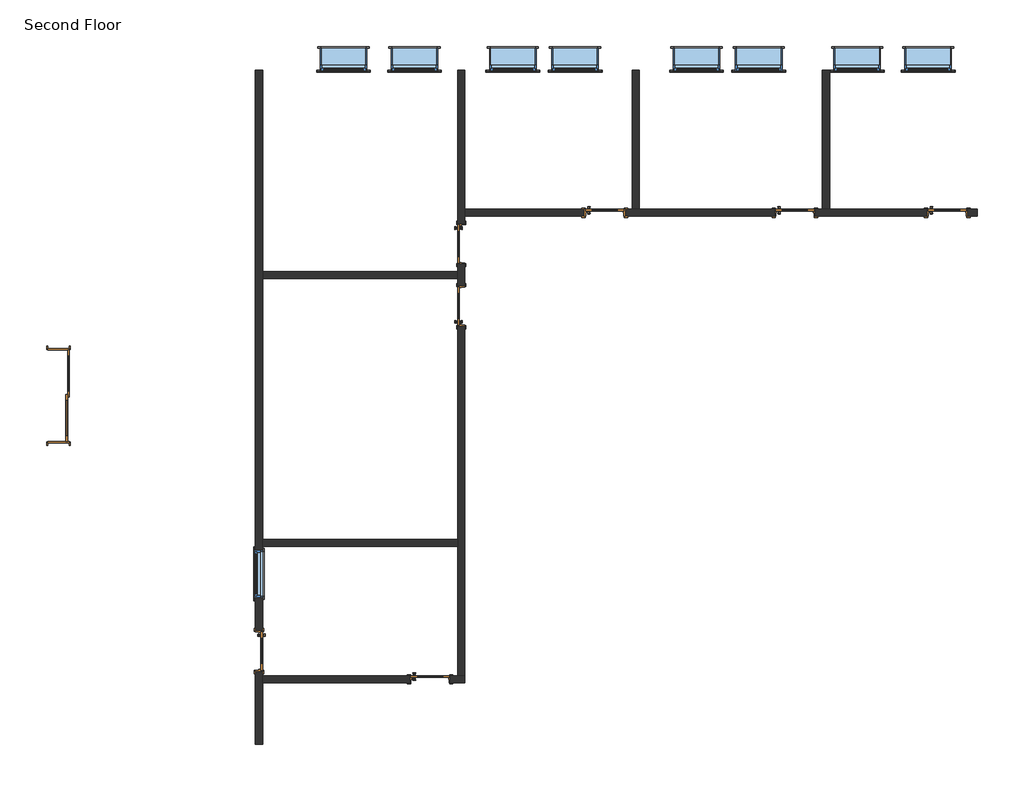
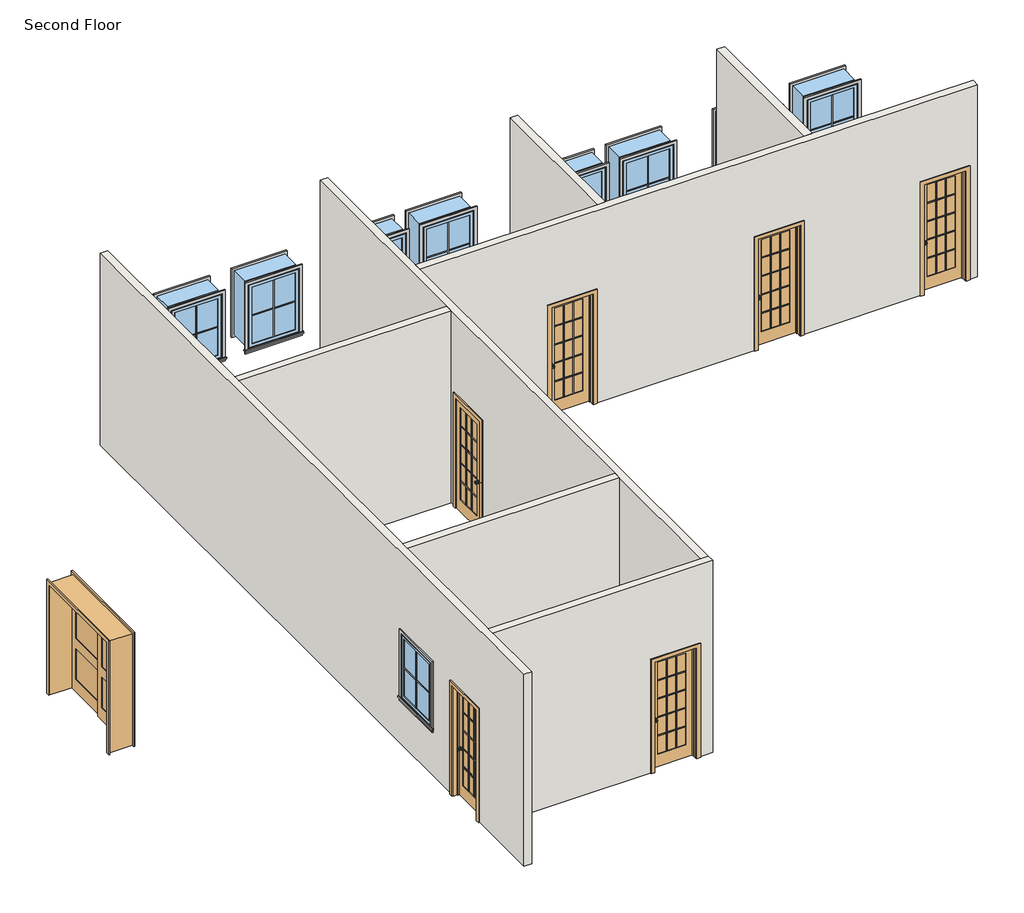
# One storey: 27 proxies, 9 windows, 8 doors, 8 walls.
"""IFC4 building model written with IfcOpenShell, lengths in millimetres."""

from ifc_helpers import new_model, si_unit, frame, origin, place, context, project, spatial, polyline, outline, extrude, faceted_brep, transform, mapped, element, save
from components import muntin_pattern_2x2_muntin_pattern_2x2_49331bd8, muntin_pattern_2x2_muntin_pattern_2x2_a8e7a107, trim_window_exterior_flat_with_sill_cdc255b3, trim_window_exterior_flat_with_sill_0ab60cae, trim_window_interior_flat_picture_frame_ab41cb78, trim_window_interior_flat_picture_frame_2efe6088, m_door_interior_double_sliding_2_panel_wood_1800_x_2100mm_b8cd72e9, m_door_interior_single_full_glass_wood_750_x_2100mm_ded28596, m_door_interior_single_full_glass_wood_750_x_2100mm_01f99739, window_awning_single_915_x_1220_b06b9331, window_awning_single_915_x_1220_597a1cb3, window_awning_single_915_x_1220_ba5cffbd

model = new_model("IFC4")

# Units and contexts
model_context = context("Model", 3, world=origin())
ifc_project = project(units=[si_unit("LENGTHUNIT", "METRE", prefix="MILLI")], contexts=[model_context])

# Site, building, storey
site = spatial("IfcSite", under=ifc_project)
building = spatial("IfcBuilding", under=site)
storey = spatial("IfcBuildingStorey", under=building, Name="Second Floor", Elevation=7200.0)

# Proxies
placement = place(None, origin())
muntin_pattern_2x2_muntin_pattern_2x2_shape = muntin_pattern_2x2_muntin_pattern_2x2_49331bd8(model_context)
element("IfcBuildingElementProxy", 1, Name="Muntin Pattern_2x2 : Muntin Pattern_2x2", ObjectType="Muntin Pattern_2x2 : Muntin Pattern_2x2", at=placement, inside=storey, context=model_context, shape_type="MappedRepresentation", body=[
    mapped(muntin_pattern_2x2_muntin_pattern_2x2_shape, transform((-13370.5350037, -4799.4136534, 8184.25), x_axis=(0.0, 1.0, 0.0), y_axis=(-1.0, 0.0, 0.0), z_axis=(0.0, 0.0, 1.0))),
])
element("IfcBuildingElementProxy", 2, Name="Muntin Pattern_2x2 : Muntin Pattern_2x2", ObjectType="Muntin Pattern_2x2 : Muntin Pattern_2x2", at=placement, inside=storey, context=model_context, shape_type="MappedRepresentation", body=[
    mapped(muntin_pattern_2x2_muntin_pattern_2x2_shape, transform((-1590.3100037, 5089.7613466, 8184.25), x_axis=(-1.0, 0.0, 0.0), y_axis=(0.0, -1.0, 0.0), z_axis=(0.0, 0.0, 1.0))),
])
element("IfcBuildingElementProxy", 3, Name="Muntin Pattern_2x2 : Muntin Pattern_2x2", ObjectType="Muntin Pattern_2x2 : Muntin Pattern_2x2", at=placement, inside=storey, context=model_context, shape_type="MappedRepresentation", body=[
    mapped(muntin_pattern_2x2_muntin_pattern_2x2_shape, transform((-198.934993, 5089.7613466, 8184.25), x_axis=(-1.0, 0.0, 0.0), y_axis=(0.0, -1.0, 0.0), z_axis=(0.0, 0.0, 1.0))),
])
element("IfcBuildingElementProxy", 4, Name="Muntin Pattern_2x2 : Muntin Pattern_2x2", ObjectType="Muntin Pattern_2x2 : Muntin Pattern_2x2", at=placement, inside=storey, context=model_context, shape_type="MappedRepresentation", body=[
    mapped(muntin_pattern_2x2_muntin_pattern_2x2_shape, transform((-3517.3100037, 5089.7613466, 8184.25), x_axis=(-1.0, 0.0, 0.0), y_axis=(0.0, -1.0, 0.0), z_axis=(0.0, 0.0, 1.0))),
])
element("IfcBuildingElementProxy", 5, Name="Muntin Pattern_2x2 : Muntin Pattern_2x2", ObjectType="Muntin Pattern_2x2 : Muntin Pattern_2x2", at=placement, inside=storey, context=model_context, shape_type="MappedRepresentation", body=[
    mapped(muntin_pattern_2x2_muntin_pattern_2x2_shape, transform((-4736.5100037, 5089.7613466, 8184.25), x_axis=(-1.0, 0.0, 0.0), y_axis=(0.0, -1.0, 0.0), z_axis=(0.0, 0.0, 1.0))),
])
muntin_pattern_2x2_muntin_pattern_2x2_2_shape = muntin_pattern_2x2_muntin_pattern_2x2_a8e7a107(model_context)
element("IfcBuildingElementProxy", 6, Name="Muntin Pattern_2x2 : Muntin Pattern_2x2", ObjectType="Muntin Pattern_2x2 : Muntin Pattern_2x2", at=placement, inside=storey, context=model_context, shape_type="MappedRepresentation", body=[
    mapped(muntin_pattern_2x2_muntin_pattern_2x2_2_shape, transform((-10263.2100037, 5089.7613466, 8184.25), x_axis=(1.0, 0.0, 0.0), y_axis=(0.0, 1.0, 0.0), z_axis=(0.0, 0.0, 1.0))),
])
element("IfcBuildingElementProxy", 7, Name="Muntin Pattern_2x2 : Muntin Pattern_2x2", ObjectType="Muntin Pattern_2x2 : Muntin Pattern_2x2", at=placement, inside=storey, context=model_context, shape_type="MappedRepresentation", body=[
    mapped(muntin_pattern_2x2_muntin_pattern_2x2_2_shape, transform((-11654.5850143, 5089.7613466, 8184.25), x_axis=(1.0, 0.0, 0.0), y_axis=(0.0, 1.0, 0.0), z_axis=(0.0, 0.0, 1.0))),
])
element("IfcBuildingElementProxy", 8, Name="Muntin Pattern_2x2 : Muntin Pattern_2x2", ObjectType="Muntin Pattern_2x2 : Muntin Pattern_2x2", at=placement, inside=storey, context=model_context, shape_type="MappedRepresentation", body=[
    mapped(muntin_pattern_2x2_muntin_pattern_2x2_2_shape, transform((-8336.2100037, 5089.7613466, 8184.25), x_axis=(1.0, 0.0, 0.0), y_axis=(0.0, 1.0, 0.0), z_axis=(0.0, 0.0, 1.0))),
])
element("IfcBuildingElementProxy", 9, Name="Muntin Pattern_2x2 : Muntin Pattern_2x2", ObjectType="Muntin Pattern_2x2 : Muntin Pattern_2x2", at=placement, inside=storey, context=model_context, shape_type="MappedRepresentation", body=[
    mapped(muntin_pattern_2x2_muntin_pattern_2x2_2_shape, transform((-7117.0100037, 5089.7613466, 8184.25), x_axis=(1.0, 0.0, 0.0), y_axis=(0.0, 1.0, 0.0), z_axis=(0.0, 0.0, 1.0))),
])
trim_window_exterior_flat_with_sill_shape = trim_window_exterior_flat_with_sill_cdc255b3(model_context)
element("IfcBuildingElementProxy", 10, Name="Trim-Window-Exterior-Flat : with Sill", ObjectType="Trim-Window-Exterior-Flat : with Sill", at=placement, inside=storey, context=model_context, shape_type="MappedRepresentation", body=[
    mapped(trim_window_exterior_flat_with_sill_shape, transform((-13380.0600037, -4799.4136534, 9334.4), x_axis=(0.0, -1.0, 0.0), y_axis=(0.0, 0.0, 1.0), z_axis=(-1.0, 0.0, 0.0))),
])
element("IfcBuildingElementProxy", 11, Name="Trim-Window-Exterior-Flat : with Sill", ObjectType="Trim-Window-Exterior-Flat : with Sill", at=placement, inside=storey, context=model_context, shape_type="MappedRepresentation", body=[
    mapped(trim_window_exterior_flat_with_sill_shape, transform((-1590.3100037, 5080.2363466, 9334.4), x_axis=(1.0, 0.0, 0.0), y_axis=(0.0, 0.0, 1.0), z_axis=(0.0, -1.0, 0.0))),
])
element("IfcBuildingElementProxy", 12, Name="Trim-Window-Exterior-Flat : with Sill", ObjectType="Trim-Window-Exterior-Flat : with Sill", at=placement, inside=storey, context=model_context, shape_type="MappedRepresentation", body=[
    mapped(trim_window_exterior_flat_with_sill_shape, transform((-198.934993, 5080.2363466, 9334.4), x_axis=(1.0, 0.0, 0.0), y_axis=(0.0, 0.0, 1.0), z_axis=(0.0, -1.0, 0.0))),
])
element("IfcBuildingElementProxy", 13, Name="Trim-Window-Exterior-Flat : with Sill", ObjectType="Trim-Window-Exterior-Flat : with Sill", at=placement, inside=storey, context=model_context, shape_type="MappedRepresentation", body=[
    mapped(trim_window_exterior_flat_with_sill_shape, transform((-3517.3100037, 5080.2363466, 9334.4), x_axis=(1.0, 0.0, 0.0), y_axis=(0.0, 0.0, 1.0), z_axis=(0.0, -1.0, 0.0))),
])
element("IfcBuildingElementProxy", 14, Name="Trim-Window-Exterior-Flat : with Sill", ObjectType="Trim-Window-Exterior-Flat : with Sill", at=placement, inside=storey, context=model_context, shape_type="MappedRepresentation", body=[
    mapped(trim_window_exterior_flat_with_sill_shape, transform((-4736.5100037, 5080.2363466, 9334.4), x_axis=(1.0, 0.0, 0.0), y_axis=(0.0, 0.0, 1.0), z_axis=(0.0, -1.0, 0.0))),
])
trim_window_exterior_flat_with_sill_2_shape = trim_window_exterior_flat_with_sill_0ab60cae(model_context)
element("IfcBuildingElementProxy", 15, Name="Trim-Window-Exterior-Flat : with Sill", ObjectType="Trim-Window-Exterior-Flat : with Sill", at=placement, inside=storey, context=model_context, shape_type="MappedRepresentation", body=[
    mapped(trim_window_exterior_flat_with_sill_2_shape, transform((-10263.2100037, 5080.2363466, 9334.4), x_axis=(-1.0, 0.0, 0.0), y_axis=(0.0, 0.0, -1.0), z_axis=(0.0, -1.0, 0.0))),
])
element("IfcBuildingElementProxy", 16, Name="Trim-Window-Exterior-Flat : with Sill", ObjectType="Trim-Window-Exterior-Flat : with Sill", at=placement, inside=storey, context=model_context, shape_type="MappedRepresentation", body=[
    mapped(trim_window_exterior_flat_with_sill_2_shape, transform((-11654.5850143, 5080.2363466, 9334.4), x_axis=(-1.0, 0.0, 0.0), y_axis=(0.0, 0.0, -1.0), z_axis=(0.0, -1.0, 0.0))),
])
element("IfcBuildingElementProxy", 17, Name="Trim-Window-Exterior-Flat : with Sill", ObjectType="Trim-Window-Exterior-Flat : with Sill", at=placement, inside=storey, context=model_context, shape_type="MappedRepresentation", body=[
    mapped(trim_window_exterior_flat_with_sill_2_shape, transform((-8336.2100037, 5080.2363466, 9334.4), x_axis=(-1.0, 0.0, 0.0), y_axis=(0.0, 0.0, -1.0), z_axis=(0.0, -1.0, 0.0))),
])
element("IfcBuildingElementProxy", 18, Name="Trim-Window-Exterior-Flat : with Sill", ObjectType="Trim-Window-Exterior-Flat : with Sill", at=placement, inside=storey, context=model_context, shape_type="MappedRepresentation", body=[
    mapped(trim_window_exterior_flat_with_sill_2_shape, transform((-7117.0100037, 5080.2363466, 9334.4), x_axis=(-1.0, 0.0, 0.0), y_axis=(0.0, 0.0, -1.0), z_axis=(0.0, -1.0, 0.0))),
])
trim_window_interior_flat_picture_frame_shape = trim_window_interior_flat_picture_frame_ab41cb78(model_context)
element("IfcBuildingElementProxy", 19, Name="Trim-Window-Interior-Flat : Picture Frame", ObjectType="Trim-Window-Interior-Flat : Picture Frame", at=placement, inside=storey, context=model_context, shape_type="MappedRepresentation", body=[
    mapped(trim_window_interior_flat_picture_frame_shape, transform((-13241.5600037, -4799.4136534, 9334.4), x_axis=(0.0, 1.0, 0.0), y_axis=(0.0, 0.0, 1.0), z_axis=(1.0, 0.0, 0.0))),
])
element("IfcBuildingElementProxy", 20, Name="Trim-Window-Interior-Flat : Picture Frame", ObjectType="Trim-Window-Interior-Flat : Picture Frame", at=placement, inside=storey, context=model_context, shape_type="MappedRepresentation", body=[
    mapped(trim_window_interior_flat_picture_frame_shape, transform((-1590.3100037, 5509.2363466, 9334.4), x_axis=(-1.0, 0.0, 0.0), y_axis=(0.0, 0.0, 1.0), z_axis=(0.0, 1.0, 0.0))),
])
element("IfcBuildingElementProxy", 21, Name="Trim-Window-Interior-Flat : Picture Frame", ObjectType="Trim-Window-Interior-Flat : Picture Frame", at=placement, inside=storey, context=model_context, shape_type="MappedRepresentation", body=[
    mapped(trim_window_interior_flat_picture_frame_shape, transform((-198.934993, 5509.2363466, 9334.4), x_axis=(-1.0, 0.0, 0.0), y_axis=(0.0, 0.0, 1.0), z_axis=(0.0, 1.0, 0.0))),
])
element("IfcBuildingElementProxy", 22, Name="Trim-Window-Interior-Flat : Picture Frame", ObjectType="Trim-Window-Interior-Flat : Picture Frame", at=placement, inside=storey, context=model_context, shape_type="MappedRepresentation", body=[
    mapped(trim_window_interior_flat_picture_frame_shape, transform((-3517.3100037, 5509.2363466, 9334.4), x_axis=(-1.0, 0.0, 0.0), y_axis=(0.0, 0.0, 1.0), z_axis=(0.0, 1.0, 0.0))),
])
element("IfcBuildingElementProxy", 23, Name="Trim-Window-Interior-Flat : Picture Frame", ObjectType="Trim-Window-Interior-Flat : Picture Frame", at=placement, inside=storey, context=model_context, shape_type="MappedRepresentation", body=[
    mapped(trim_window_interior_flat_picture_frame_shape, transform((-4736.5100037, 5509.2363466, 9334.4), x_axis=(-1.0, 0.0, 0.0), y_axis=(0.0, 0.0, 1.0), z_axis=(0.0, 1.0, 0.0))),
])
trim_window_interior_flat_picture_frame_2_shape = trim_window_interior_flat_picture_frame_2efe6088(model_context)
element("IfcBuildingElementProxy", 24, Name="Trim-Window-Interior-Flat : Picture Frame", ObjectType="Trim-Window-Interior-Flat : Picture Frame", at=placement, inside=storey, context=model_context, shape_type="MappedRepresentation", body=[
    mapped(trim_window_interior_flat_picture_frame_2_shape, transform((-10263.2100037, 5509.2363466, 9334.4), x_axis=(1.0, 0.0, 0.0), y_axis=(0.0, 0.0, -1.0), z_axis=(0.0, 1.0, 0.0))),
])
element("IfcBuildingElementProxy", 25, Name="Trim-Window-Interior-Flat : Picture Frame", ObjectType="Trim-Window-Interior-Flat : Picture Frame", at=placement, inside=storey, context=model_context, shape_type="MappedRepresentation", body=[
    mapped(trim_window_interior_flat_picture_frame_2_shape, transform((-11654.5850143, 5509.2363466, 9334.4), x_axis=(1.0, 0.0, 0.0), y_axis=(0.0, 0.0, -1.0), z_axis=(0.0, 1.0, 0.0))),
])
element("IfcBuildingElementProxy", 26, Name="Trim-Window-Interior-Flat : Picture Frame", ObjectType="Trim-Window-Interior-Flat : Picture Frame", at=placement, inside=storey, context=model_context, shape_type="MappedRepresentation", body=[
    mapped(trim_window_interior_flat_picture_frame_2_shape, transform((-8336.2100037, 5509.2363466, 9334.4), x_axis=(1.0, 0.0, 0.0), y_axis=(0.0, 0.0, -1.0), z_axis=(0.0, 1.0, 0.0))),
])
element("IfcBuildingElementProxy", 27, Name="Trim-Window-Interior-Flat : Picture Frame", ObjectType="Trim-Window-Interior-Flat : Picture Frame", at=placement, inside=storey, context=model_context, shape_type="MappedRepresentation", body=[
    mapped(trim_window_interior_flat_picture_frame_2_shape, transform((-7117.0100037, 5509.2363466, 9334.4), x_axis=(1.0, 0.0, 0.0), y_axis=(0.0, 0.0, -1.0), z_axis=(0.0, 1.0, 0.0))),
])

# Doors
m_door_interior_double_sliding_2_panel_wood_1800_x_2100mm_shape = m_door_interior_double_sliding_2_panel_wood_1800_x_2100mm_b8cd72e9(model_context)
element("IfcDoor", 28, ObjectType="M_Door-Interior-Double-Sliding-2_Panel-Wood : 1800 x 2100mm", at=placement, inside=storey, context=model_context, shape_type="MappedRepresentation", body=[
    mapped(m_door_interior_double_sliding_2_panel_wood_1800_x_2100mm_shape, transform((-17236.1350037, -1306.0811162, 7200.0), x_axis=(0.0, -1.0, 0.0), y_axis=(1.0, 0.0, 0.0), z_axis=(0.0, 0.0, 1.0))),
])
m_door_interior_single_full_glass_wood_750_x_2100mm_shape = m_door_interior_single_full_glass_wood_750_x_2100mm_ded28596(model_context)
element("IfcDoor", 29, ObjectType="M_Door-Interior-Single-Full Glass-Wood : 750 x 2100mm", at=placement, inside=storey, context=model_context, shape_type="MappedRepresentation", body=[
    mapped(m_door_interior_single_full_glass_wood_750_x_2100mm_shape, transform((-13307.6350037, -6311.9136534, 7200.0), x_axis=(0.0, -1.0, 0.0), y_axis=(1.0, 0.0, 0.0), z_axis=(0.0, 0.0, 1.0))),
])
element("IfcDoor", 30, ObjectType="M_Door-Interior-Single-Full Glass-Wood : 750 x 2100mm", at=placement, inside=storey, context=model_context, shape_type="MappedRepresentation", body=[
    mapped(m_door_interior_single_full_glass_wood_750_x_2100mm_shape, transform((-9958.4100037, -6860.5886534, 7200.0), x_axis=(1.0, 0.0, 0.0), y_axis=(0.0, 1.0, 0.0), z_axis=(0.0, 0.0, 1.0))),
])
element("IfcDoor", 31, ObjectType="M_Door-Interior-Single-Full Glass-Wood : 750 x 2100mm", at=placement, inside=storey, context=model_context, shape_type="MappedRepresentation", body=[
    mapped(m_door_interior_single_full_glass_wood_750_x_2100mm_shape, transform((-9351.9850037, 451.4363466, 7200.0), x_axis=(0.0, 1.0, 0.0), y_axis=(-1.0, 0.0, 0.0), z_axis=(0.0, 0.0, 1.0))),
])
element("IfcDoor", 32, ObjectType="M_Door-Interior-Single-Full Glass-Wood : 750 x 2100mm", at=placement, inside=storey, context=model_context, shape_type="MappedRepresentation", body=[
    mapped(m_door_interior_single_full_glass_wood_750_x_2100mm_shape, transform((-6536.3600037, 2283.4113466, 7200.0), x_axis=(1.0, 0.0, 0.0), y_axis=(0.0, 1.0, 0.0), z_axis=(0.0, 0.0, 1.0))),
])
element("IfcDoor", 33, ObjectType="M_Door-Interior-Single-Full Glass-Wood : 750 x 2100mm", at=placement, inside=storey, context=model_context, shape_type="MappedRepresentation", body=[
    mapped(m_door_interior_single_full_glass_wood_750_x_2100mm_shape, transform((-2809.5100037, 2283.4113466, 7200.0), x_axis=(1.0, 0.0, 0.0), y_axis=(0.0, 1.0, 0.0), z_axis=(0.0, 0.0, 1.0))),
])
element("IfcDoor", 34, ObjectType="M_Door-Interior-Single-Full Glass-Wood : 750 x 2100mm", at=placement, inside=storey, context=model_context, shape_type="MappedRepresentation", body=[
    mapped(m_door_interior_single_full_glass_wood_750_x_2100mm_shape, transform((175.5899963, 2283.4113466, 7200.0), x_axis=(1.0, 0.0, 0.0), y_axis=(0.0, 1.0, 0.0), z_axis=(0.0, 0.0, 1.0))),
])
m_door_interior_single_full_glass_wood_750_x_2100mm_2_shape = m_door_interior_single_full_glass_wood_750_x_2100mm_01f99739(model_context)
element("IfcDoor", 35, ObjectType="M_Door-Interior-Single-Full Glass-Wood : 750 x 2100mm", at=placement, inside=storey, context=model_context, shape_type="MappedRepresentation", body=[
    mapped(m_door_interior_single_full_glass_wood_750_x_2100mm_2_shape, transform((-9351.9850037, 1670.6363466, 7200.0), x_axis=(0.0, -1.0, 0.0), y_axis=(1.0, 0.0, 0.0), z_axis=(0.0, 0.0, 1.0))),
])

# Walls
element("IfcWall", 36, ObjectType="Interior - 138mm Partition (1-hr)", at=placement, inside=storey, context=model_context, shape_type="Brep", body=[
    faceted_brep([(-13380.0600037, -8139.7636534, 10858.0), (-13380.0600037, 5080.2363466, 10858.0), (-13380.0600037, 5080.2363466, 7200.0), (-13380.0600037, -5911.9136534, 7200.0), (-13380.0600037, -5911.9136534, 9325.0), (-13380.0600037, -6711.9136534, 9325.0), (-13380.0600037, -6711.9136534, 7200.0), (-13380.0600037, -8139.7636534, 7200.0), (-13380.0600037, -4341.9136534, 9334.4), (-13380.0600037, -5256.9136534, 9334.4), (-13380.0600037, -5256.9136534, 8114.4), (-13380.0600037, -4341.9136534, 8114.4), (-13241.5600037, 5080.2363466, 10858.0), (-13241.5600037, 1130.2863466, 10858.0), (-13241.5600037, 991.7863466, 10858.0), (-13241.5600037, -4120.5636534, 10858.0), (-13241.5600037, -4259.0636534, 10858.0), (-13241.5600037, -6794.5136534, 10858.0), (-13241.5600037, -6933.0136534, 10858.0), (-13241.5600037, -8139.7636534, 10858.0), (-13241.5600037, -8139.7636534, 7200.0), (-13241.5600037, -6933.0136534, 7200.0), (-13241.5600037, -6794.5136534, 7200.0), (-13241.5600037, -6711.9136534, 7200.0), (-13241.5600037, -6711.9136534, 9325.0), (-13241.5600037, -5911.9136534, 9325.0), (-13241.5600037, -5911.9136534, 7200.0), (-13241.5600037, -4259.0636534, 7200.0), (-13241.5600037, -4120.5636534, 7200.0), (-13241.5600037, 991.7863466, 7200.0), (-13241.5600037, 1130.2863466, 7200.0), (-13241.5600037, 5080.2363466, 7200.0), (-13241.5600037, -4341.9136534, 9334.4), (-13241.5600037, -4341.9136534, 8114.4), (-13241.5600037, -5256.9136534, 8114.4), (-13241.5600037, -5256.9136534, 9334.4)], [[[0, 1, 2, 3, 4, 5, 6, 7], [8, 9, 10, 11]], [[12, 13, 14, 15, 16, 17, 18, 19, 20, 21, 22, 23, 24, 25, 26, 27, 28, 29, 30, 31], [32, 33, 34, 35]], [[2, 31, 30, 29, 28, 27, 26, 3]], [[20, 7, 6, 23, 22, 21]], [[1, 0, 19, 18, 17, 16, 15, 14, 13, 12]], [[5, 24, 23, 6]], [[24, 5, 4, 25]], [[25, 4, 3, 26]], [[33, 32, 8, 11]], [[34, 33, 11, 10]], [[35, 34, 10, 9]], [[32, 35, 9, 8]], [[2, 1, 12, 31]], [[0, 7, 20, 19]]]),
])
element("IfcWall", 37, ObjectType="Interior - 138mm Partition (1-hr)", at=placement, inside=storey, context=model_context, shape_type="Brep", body=[
    faceted_brep([(-9279.5600037, -6933.0136534, 10858.0), (-13241.5600037, -6933.0136534, 10858.0), (-13241.5600037, -6933.0136534, 7200.0), (-10358.4100037, -6933.0136534, 7200.0), (-10358.4100037, -6933.0136534, 9325.0), (-9558.4100037, -6933.0136534, 9325.0), (-9558.4100037, -6933.0136534, 7200.0), (-9279.5600037, -6933.0136534, 7200.0), (-13241.5600037, -6794.5136534, 10858.0), (-9418.0600037, -6794.5136534, 10858.0), (-9279.5600037, -6794.5136534, 10858.0), (-9279.5600037, -6794.5136534, 7200.0), (-9418.0600037, -6794.5136534, 7200.0), (-9558.4100037, -6794.5136534, 7200.0), (-9558.4100037, -6794.5136534, 9325.0), (-10358.4100037, -6794.5136534, 9325.0), (-10358.4100037, -6794.5136534, 7200.0), (-13241.5600037, -6794.5136534, 7200.0)], [[[0, 1, 2, 3, 4, 5, 6, 7]], [[8, 9, 10, 11, 12, 13, 14, 15, 16, 17]], [[2, 17, 16, 3]], [[11, 7, 6, 13, 12]], [[1, 0, 10, 9, 8]], [[2, 1, 8, 17]], [[0, 7, 11, 10]], [[5, 14, 13, 6]], [[14, 5, 4, 15]], [[15, 4, 3, 16]]]),
])
element("IfcWall", 38, ObjectType="Interior - 138mm Partition (1-hr)", at=placement, inside=storey, context=model_context, shape_type="Brep", body=[
    faceted_brep([(-9279.5600037, 5080.2363466, 10858.0), (-9279.5600037, 2349.4863466, 10858.0), (-9279.5600037, 2210.9863466, 10858.0), (-9279.5600037, -6794.5136534, 10858.0), (-9279.5600037, -6794.5136534, 7200.0), (-9279.5600037, 51.4363466, 7200.0), (-9279.5600037, 51.4363466, 9325.0), (-9279.5600037, 851.4363466, 9325.0), (-9279.5600037, 851.4363466, 7200.0), (-9279.5600037, 1270.6363466, 7200.0), (-9279.5600037, 1270.6363466, 9325.0), (-9279.5600037, 2070.6363466, 9325.0), (-9279.5600037, 2070.6363466, 7200.0), (-9279.5600037, 2210.9863466, 7200.0), (-9279.5600037, 2349.4863466, 7200.0), (-9279.5600037, 5080.2363466, 7200.0), (-9418.0600037, -6794.5136534, 10858.0), (-9418.0600037, -4259.0636534, 10858.0), (-9418.0600037, -4120.5636534, 10858.0), (-9418.0600037, 991.7863466, 10858.0), (-9418.0600037, 1130.2863466, 10858.0), (-9418.0600037, 5080.2363466, 10858.0), (-9418.0600037, 5080.2363466, 7200.0), (-9418.0600037, 2070.6363466, 7200.0), (-9418.0600037, 2070.6363466, 9325.0), (-9418.0600037, 1270.6363466, 9325.0), (-9418.0600037, 1270.6363466, 7200.0), (-9418.0600037, 1130.2863466, 7200.0), (-9418.0600037, 991.7863466, 7200.0), (-9418.0600037, 851.4363466, 7200.0), (-9418.0600037, 851.4363466, 9325.0), (-9418.0600037, 51.4363466, 9325.0), (-9418.0600037, 51.4363466, 7200.0), (-9418.0600037, -4120.5636534, 7200.0), (-9418.0600037, -4259.0636534, 7200.0), (-9418.0600037, -6794.5136534, 7200.0)], [[[0, 1, 2, 3, 4, 5, 6, 7, 8, 9, 10, 11, 12, 13, 14, 15]], [[16, 17, 18, 19, 20, 21, 22, 23, 24, 25, 26, 27, 28, 29, 30, 31, 32, 33, 34, 35]], [[4, 35, 34, 33, 32, 5]], [[8, 29, 28, 27, 26, 9]], [[22, 15, 14, 13, 12, 23]], [[3, 2, 1, 0, 21, 20, 19, 18, 17, 16]], [[4, 3, 16, 35]], [[7, 30, 29, 8]], [[30, 7, 6, 31]], [[31, 6, 5, 32]], [[25, 10, 9, 26]], [[10, 25, 24, 11]], [[11, 24, 23, 12]], [[0, 15, 22, 21]]]),
])
element("IfcWall", 39, ObjectType="Interior - 138mm Partition (1-hr)", at=placement, inside=storey, context=model_context, shape_type="Brep", body=[
    faceted_brep([(767.1899963, 2210.9863466, 10858.0), (-9279.5600037, 2210.9863466, 10858.0), (-9279.5600037, 2210.9863466, 7200.0), (-6936.3600037, 2210.9863466, 7200.0), (-6936.3600037, 2210.9863466, 9325.0), (-6136.3600037, 2210.9863466, 9325.0), (-6136.3600037, 2210.9863466, 7200.0), (-3209.5100037, 2210.9863466, 7200.0), (-3209.5100037, 2210.9863466, 9325.0), (-2409.5100037, 2210.9863466, 9325.0), (-2409.5100037, 2210.9863466, 7200.0), (-224.4100037, 2210.9863466, 7200.0), (-224.4100037, 2210.9863466, 9325.0), (575.5899963, 2210.9863466, 9325.0), (575.5899963, 2210.9863466, 7200.0), (767.1899963, 2210.9863466, 7200.0), (-9279.5600037, 2349.4863466, 10858.0), (-5996.0100037, 2349.4863466, 10858.0), (-5857.5100037, 2349.4863466, 10858.0), (-2269.1600037, 2349.4863466, 10858.0), (-2130.6600037, 2349.4863466, 10858.0), (767.1899963, 2349.4863466, 10858.0), (767.1899963, 2349.4863466, 7200.0), (575.5899963, 2349.4863466, 7200.0), (575.5899963, 2349.4863466, 9325.0), (-224.4100037, 2349.4863466, 9325.0), (-224.4100037, 2349.4863466, 7200.0), (-2130.6600037, 2349.4863466, 7200.0), (-2269.1600037, 2349.4863466, 7200.0), (-2409.5100037, 2349.4863466, 7200.0), (-2409.5100037, 2349.4863466, 9325.0), (-3209.5100037, 2349.4863466, 9325.0), (-3209.5100037, 2349.4863466, 7200.0), (-5857.5100037, 2349.4863466, 7200.0), (-5996.0100037, 2349.4863466, 7200.0), (-6136.3600037, 2349.4863466, 7200.0), (-6136.3600037, 2349.4863466, 9325.0), (-6936.3600037, 2349.4863466, 9325.0), (-6936.3600037, 2349.4863466, 7200.0), (-9279.5600037, 2349.4863466, 7200.0)], [[[0, 1, 2, 3, 4, 5, 6, 7, 8, 9, 10, 11, 12, 13, 14, 15]], [[16, 17, 18, 19, 20, 21, 22, 23, 24, 25, 26, 27, 28, 29, 30, 31, 32, 33, 34, 35, 36, 37, 38, 39]], [[2, 39, 38, 3]], [[6, 35, 34, 33, 32, 7]], [[10, 29, 28, 27, 26, 11]], [[22, 15, 14, 23]], [[1, 0, 21, 20, 19, 18, 17, 16]], [[2, 1, 16, 39]], [[5, 36, 35, 6]], [[36, 5, 4, 37]], [[37, 4, 3, 38]], [[9, 30, 29, 10]], [[30, 9, 8, 31]], [[31, 8, 7, 32]], [[13, 24, 23, 14]], [[24, 13, 12, 25]], [[25, 12, 11, 26]], [[0, 15, 22, 21]]]),
])
element("IfcWall", 40, ObjectType="Interior - 138mm Partition (1-hr)", at=placement, inside=storey, context=model_context, shape_type="SweptSolid", body=[
    extrude(outline(polyline([(-9418.0600037, 991.7863466), (-13241.5600037, 991.7863466), (-13241.5600037, 1130.2863466), (-9418.0600037, 1130.2863466), (-9418.0600037, 991.7863466)])), frame((0.0, 0.0, 7200.0), z_axis=(0.0, 0.0, 1.0), x_axis=(1.0, 0.0, 0.0)), (0.0, 0.0, 1.0), 3658.0),
])
element("IfcWall", 41, ObjectType="Interior - 138mm Partition (1-hr)", at=placement, inside=storey, context=model_context, shape_type="SweptSolid", body=[
    extrude(outline(polyline([(-9418.0600037, -4259.0636534), (-13241.5600037, -4259.0636534), (-13241.5600037, -4120.5636534), (-9418.0600037, -4120.5636534), (-9418.0600037, -4259.0636534)])), frame((0.0, 0.0, 7200.0), z_axis=(0.0, 0.0, 1.0), x_axis=(1.0, 0.0, 0.0)), (0.0, 0.0, 1.0), 3658.0),
])
element("IfcWall", 42, ObjectType="Interior - 138mm Partition (1-hr)", at=placement, inside=storey, context=model_context, shape_type="SweptSolid", body=[
    extrude(outline(polyline([(-5996.0100037, 2349.4863466), (-5996.0100037, 5080.2363466), (-5857.5100037, 5080.2363466), (-5857.5100037, 2349.4863466), (-5996.0100037, 2349.4863466)])), frame((0.0, 0.0, 7200.0), z_axis=(0.0, 0.0, 1.0), x_axis=(1.0, 0.0, 0.0)), (0.0, 0.0, 1.0), 3658.0),
])
element("IfcWall", 43, ObjectType="Interior - 138mm Partition (1-hr)", at=placement, inside=storey, context=model_context, shape_type="SweptSolid", body=[
    extrude(outline(polyline([(-2269.1600037, 2349.4863466), (-2269.1600037, 5080.2363466), (-2130.6600037, 5080.2363466), (-2130.6600037, 2349.4863466), (-2269.1600037, 2349.4863466)])), frame((0.0, 0.0, 7200.0), z_axis=(0.0, 0.0, 1.0), x_axis=(1.0, 0.0, 0.0)), (0.0, 0.0, 1.0), 3658.0),
])

# Windows
window_awning_single_915_x_1220_shape = window_awning_single_915_x_1220_b06b9331(model_context)
element("IfcWindow", 44, ObjectType="Window-Awning-Single : 915 X 1220", at=placement, inside=storey, context=model_context, shape_type="MappedRepresentation", body=[
    mapped(window_awning_single_915_x_1220_shape, transform((-13310.8100037, -4799.4136534, 7200.0), x_axis=(0.0, 1.0, 0.0), y_axis=(-1.0, 0.0, 0.0), z_axis=(0.0, 0.0, 1.0))),
])
window_awning_single_915_x_1220_2_shape = window_awning_single_915_x_1220_597a1cb3(model_context)
element("IfcWindow", 45, ObjectType="Window-Awning-Single : 915 X 1220", at=placement, inside=storey, context=model_context, shape_type="MappedRepresentation", body=[
    mapped(window_awning_single_915_x_1220_2_shape, transform((-10263.2100037, 5294.7363466, 7200.0), x_axis=(1.0, 0.0, 0.0), y_axis=(0.0, 1.0, 0.0), z_axis=(0.0, 0.0, 1.0))),
])
element("IfcWindow", 46, ObjectType="Window-Awning-Single : 915 X 1220", at=placement, inside=storey, context=model_context, shape_type="MappedRepresentation", body=[
    mapped(window_awning_single_915_x_1220_2_shape, transform((-11654.5850143, 5294.7363466, 7200.0), x_axis=(1.0, 0.0, 0.0), y_axis=(0.0, 1.0, 0.0), z_axis=(0.0, 0.0, 1.0))),
])
element("IfcWindow", 47, ObjectType="Window-Awning-Single : 915 X 1220", at=placement, inside=storey, context=model_context, shape_type="MappedRepresentation", body=[
    mapped(window_awning_single_915_x_1220_2_shape, transform((-8336.2100037, 5294.7363466, 7200.0), x_axis=(1.0, 0.0, 0.0), y_axis=(0.0, 1.0, 0.0), z_axis=(0.0, 0.0, 1.0))),
])
element("IfcWindow", 48, ObjectType="Window-Awning-Single : 915 X 1220", at=placement, inside=storey, context=model_context, shape_type="MappedRepresentation", body=[
    mapped(window_awning_single_915_x_1220_2_shape, transform((-7117.0100037, 5294.7363466, 7200.0), x_axis=(1.0, 0.0, 0.0), y_axis=(0.0, 1.0, 0.0), z_axis=(0.0, 0.0, 1.0))),
])
window_awning_single_915_x_1220_3_shape = window_awning_single_915_x_1220_ba5cffbd(model_context)
element("IfcWindow", 49, ObjectType="Window-Awning-Single : 915 X 1220", at=placement, inside=storey, context=model_context, shape_type="MappedRepresentation", body=[
    mapped(window_awning_single_915_x_1220_3_shape, transform((-1590.3100037, 5294.7363466, 7200.0), x_axis=(-1.0, 0.0, 0.0), y_axis=(0.0, -1.0, 0.0), z_axis=(0.0, 0.0, 1.0))),
])
element("IfcWindow", 50, ObjectType="Window-Awning-Single : 915 X 1220", at=placement, inside=storey, context=model_context, shape_type="MappedRepresentation", body=[
    mapped(window_awning_single_915_x_1220_3_shape, transform((-198.934993, 5294.7363466, 7200.0), x_axis=(-1.0, 0.0, 0.0), y_axis=(0.0, -1.0, 0.0), z_axis=(0.0, 0.0, 1.0))),
])
element("IfcWindow", 51, ObjectType="Window-Awning-Single : 915 X 1220", at=placement, inside=storey, context=model_context, shape_type="MappedRepresentation", body=[
    mapped(window_awning_single_915_x_1220_3_shape, transform((-3517.3100037, 5294.7363466, 7200.0), x_axis=(-1.0, 0.0, 0.0), y_axis=(0.0, -1.0, 0.0), z_axis=(0.0, 0.0, 1.0))),
])
element("IfcWindow", 52, ObjectType="Window-Awning-Single : 915 X 1220", at=placement, inside=storey, context=model_context, shape_type="MappedRepresentation", body=[
    mapped(window_awning_single_915_x_1220_3_shape, transform((-4736.5100037, 5294.7363466, 7200.0), x_axis=(-1.0, 0.0, 0.0), y_axis=(0.0, -1.0, 0.0), z_axis=(0.0, 0.0, 1.0))),
])

save(model, "model.ifc")
